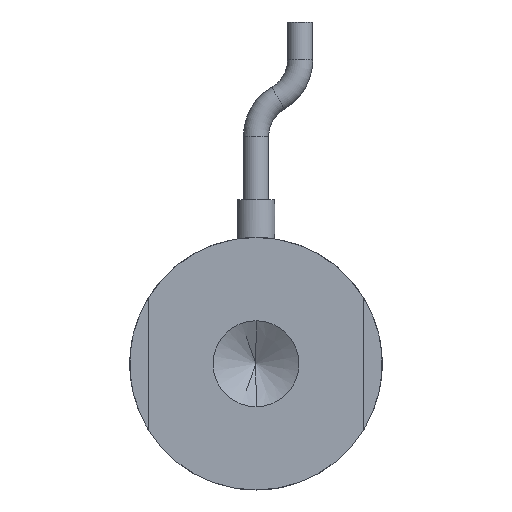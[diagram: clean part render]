
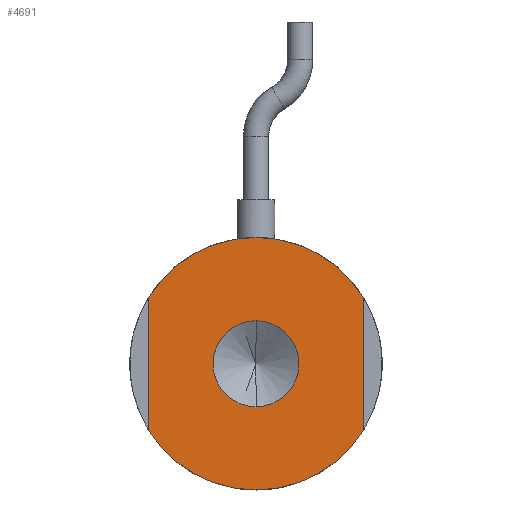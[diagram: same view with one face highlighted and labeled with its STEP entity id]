
A CAD part, front view. The second image highlights one B-rep face of the part: STEP entity #4691.
In plain terms, the highlighted planar face has unit normal (0, -1, 0).
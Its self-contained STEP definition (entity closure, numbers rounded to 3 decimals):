
#69 = CARTESIAN_POINT ( 'NONE',  ( 8.5, 0., -5.268 ) ) ;
#847 = AXIS2_PLACEMENT_3D ( 'NONE', #9651, #33986, #13105 ) ;
#1192 = EDGE_LOOP ( 'NONE', ( #43704, #35746 ) ) ;
#1659 = VERTEX_POINT ( 'NONE', #9916 ) ;
#1911 = ORIENTED_EDGE ( 'NONE', *, *, #32430, .F. ) ;
#1994 = DIRECTION ( 'NONE',  ( 0., 0., 1. ) ) ;
#2013 = CARTESIAN_POINT ( 'NONE',  ( -8.5, 0., -5.268 ) ) ;
#2056 = CIRCLE ( 'NONE', #847, 10. ) ;
#3337 = EDGE_LOOP ( 'NONE', ( #29266, #21617, #16682, #13395, #38890, #1911 ) ) ;
#3594 = VERTEX_POINT ( 'NONE', #16129 ) ;
#4073 = CIRCLE ( 'NONE', #35673, 3.4 ) ;
#4691 = ADVANCED_FACE ( 'NONE', ( #35962, #38099 ), #7540, .F. ) ;
#6829 = VECTOR ( 'NONE', #14321, 1000. ) ;
#7177 = AXIS2_PLACEMENT_3D ( 'NONE', #43519, #22956, #1994 ) ;
#7230 = CARTESIAN_POINT ( 'NONE',  ( 0., 0., 0. ) ) ;
#7344 = CARTESIAN_POINT ( 'NONE',  ( 0., 0., 0. ) ) ;
#7540 = PLANE ( 'NONE',  #44007 ) ;
#7630 = CARTESIAN_POINT ( 'NONE',  ( 0., 0., 0. ) ) ;
#8023 = AXIS2_PLACEMENT_3D ( 'NONE', #7344, #31735, #10883 ) ;
#8236 = AXIS2_PLACEMENT_3D ( 'NONE', #10269, #34567, #13697 ) ;
#9651 = CARTESIAN_POINT ( 'NONE',  ( 0., 0., 0. ) ) ;
#9916 = CARTESIAN_POINT ( 'NONE',  ( 0., 0., -10. ) ) ;
#10181 = CARTESIAN_POINT ( 'NONE',  ( 8.5, 0., 5.268 ) ) ;
#10269 = CARTESIAN_POINT ( 'NONE',  ( 0., 0., 0. ) ) ;
#10270 = DIRECTION ( 'NONE',  ( 0., 0., -1. ) ) ;
#10769 = DIRECTION ( 'NONE',  ( 0., 0., 1. ) ) ;
#10883 = DIRECTION ( 'NONE',  ( 0., 0., 1. ) ) ;
#11153 = DIRECTION ( 'NONE',  ( 0., 0., -1. ) ) ;
#11871 = EDGE_CURVE ( 'NONE', #31601, #1659, #2056, .T. ) ;
#13105 = DIRECTION ( 'NONE',  ( 0., 0., 1. ) ) ;
#13395 = ORIENTED_EDGE ( 'NONE', *, *, #26180, .F. ) ;
#13524 = AXIS2_PLACEMENT_3D ( 'NONE', #7230, #31622, #10769 ) ;
#13697 = DIRECTION ( 'NONE',  ( 0., 0., -1. ) ) ;
#13969 = VERTEX_POINT ( 'NONE', #19689 ) ;
#14321 = DIRECTION ( 'NONE',  ( 0., 0., 1. ) ) ;
#14522 = DIRECTION ( 'NONE',  ( 0., 0., 1. ) ) ;
#16129 = CARTESIAN_POINT ( 'NONE',  ( 0., 0., -3.4 ) ) ;
#16238 = EDGE_CURVE ( 'NONE', #43846, #43153, #39966, .T. ) ;
#16682 = ORIENTED_EDGE ( 'NONE', *, *, #11871, .F. ) ;
#19334 = CIRCLE ( 'NONE', #8236, 3.4 ) ;
#19689 = CARTESIAN_POINT ( 'NONE',  ( 0., 0., 3.4 ) ) ;
#20716 = LINE ( 'NONE', #34711, #39092 ) ;
#20961 = CARTESIAN_POINT ( 'NONE',  ( -8.5, 0., 5.268 ) ) ;
#21617 = ORIENTED_EDGE ( 'NONE', *, *, #42160, .F. ) ;
#22956 = DIRECTION ( 'NONE',  ( 0., 1., 0. ) ) ;
#26180 = EDGE_CURVE ( 'NONE', #43153, #31601, #20716, .T. ) ;
#28374 = VERTEX_POINT ( 'NONE', #2013 ) ;
#28731 = CIRCLE ( 'NONE', #8023, 10. ) ;
#29266 = ORIENTED_EDGE ( 'NONE', *, *, #37746, .F. ) ;
#31601 = VERTEX_POINT ( 'NONE', #69 ) ;
#31622 = DIRECTION ( 'NONE',  ( 0., 1., 0. ) ) ;
#31735 = DIRECTION ( 'NONE',  ( 0., 1., 0. ) ) ;
#31909 = CARTESIAN_POINT ( 'NONE',  ( 0., 0., 0. ) ) ;
#32006 = DIRECTION ( 'NONE',  ( 0., -1., 0. ) ) ;
#32303 = CARTESIAN_POINT ( 'NONE',  ( -8.5, 0., 0. ) ) ;
#32430 = EDGE_CURVE ( 'NONE', #38382, #43846, #28731, .T. ) ;
#33034 = CARTESIAN_POINT ( 'NONE',  ( 0., 0., 10. ) ) ;
#33986 = DIRECTION ( 'NONE',  ( 0., 1., 0. ) ) ;
#34567 = DIRECTION ( 'NONE',  ( 0., -1., 0. ) ) ;
#34711 = CARTESIAN_POINT ( 'NONE',  ( 8.5, 0., 0. ) ) ;
#35101 = EDGE_CURVE ( 'NONE', #13969, #3594, #19334, .T. ) ;
#35372 = DIRECTION ( 'NONE',  ( 0., 1., 0. ) ) ;
#35536 = CIRCLE ( 'NONE', #7177, 10. ) ;
#35673 = AXIS2_PLACEMENT_3D ( 'NONE', #7630, #32006, #11153 ) ;
#35746 = ORIENTED_EDGE ( 'NONE', *, *, #35101, .F. ) ;
#35962 = FACE_BOUND ( 'NONE', #1192, .T. ) ;
#37746 = EDGE_CURVE ( 'NONE', #28374, #38382, #42555, .T. ) ;
#38099 = FACE_OUTER_BOUND ( 'NONE', #3337, .T. ) ;
#38382 = VERTEX_POINT ( 'NONE', #20961 ) ;
#38863 = EDGE_CURVE ( 'NONE', #3594, #13969, #4073, .T. ) ;
#38890 = ORIENTED_EDGE ( 'NONE', *, *, #16238, .F. ) ;
#39092 = VECTOR ( 'NONE', #10270, 1000. ) ;
#39966 = CIRCLE ( 'NONE', #13524, 10. ) ;
#42160 = EDGE_CURVE ( 'NONE', #1659, #28374, #35536, .T. ) ;
#42555 = LINE ( 'NONE', #32303, #6829 ) ;
#43153 = VERTEX_POINT ( 'NONE', #10181 ) ;
#43519 = CARTESIAN_POINT ( 'NONE',  ( 0., 0., 0. ) ) ;
#43704 = ORIENTED_EDGE ( 'NONE', *, *, #38863, .F. ) ;
#43846 = VERTEX_POINT ( 'NONE', #33034 ) ;
#44007 = AXIS2_PLACEMENT_3D ( 'NONE', #31909, #35372, #14522 ) ;
